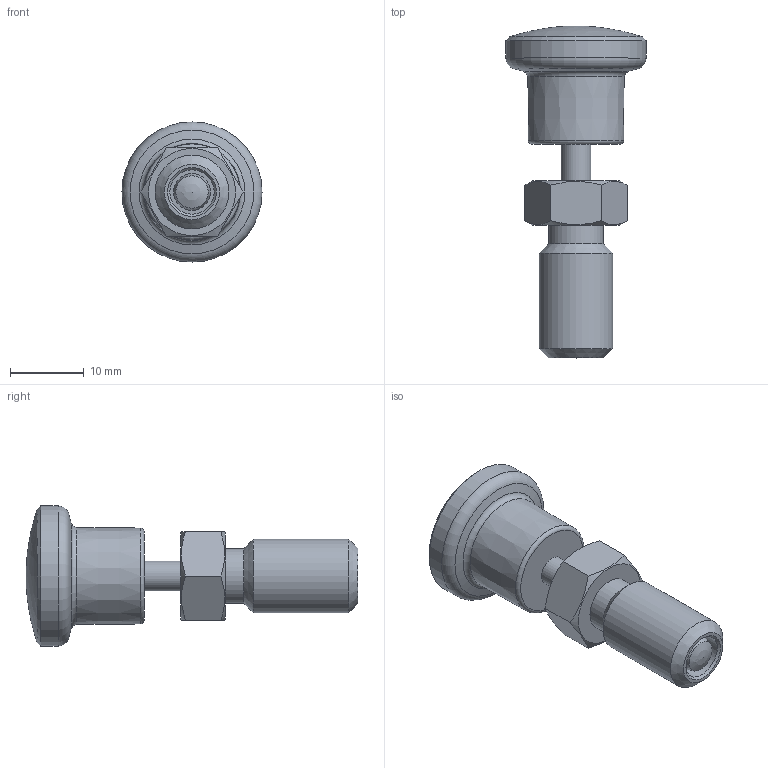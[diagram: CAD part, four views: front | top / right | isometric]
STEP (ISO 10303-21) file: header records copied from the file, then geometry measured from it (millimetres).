
FILE_DESCRIPTION( ( 'STEP AP203' ), '1' );
FILE_NAME( 'C:/Temp/Ganter_Step_05_03_2020/data/3_1/gn817/gn817_ni-rastbolzen_rot/Stainless steel-Indexing plunger GN 817-5-5-B-NI-RT (activated).stp', '2020-03-12T09:00:13', ( 'License CC BY-ND 4.0' ), ( 'CADENAS' ), ' ', 'PARTsolutions', ' ' );
FILE_SCHEMA( ( 'CONFIG_CONTROL_DESIGN' ) );
Length unit declared in the file: millimetre
Products named in the file (4): Stainless steel-Indexing plunger GN 817-5-5-B-NI-RT (activated); _Stainless steel-Indexing plunger GN 817-5-5-B-NI-RT (activated)-d; _Stainless steel-Indexing plunger GN 817-5-5-B-NI-RT-2; _Stainless Steel Indexing plunger GN 817-5-5-B-NI-RT-1
Assembly tree (3 placements, depth 2):
  Stainless steel-Indexing plunger GN 817-5-5-B-NI-RT (activated)
    _Stainless steel-Indexing plunger GN 817-5-5-B-NI-RT (activated)-d
    _Stainless steel-Indexing plunger GN 817-5-5-B-NI-RT-2
    _Stainless Steel Indexing plunger GN 817-5-5-B-NI-RT-1
Bounding box: 19 x 45 x 19 mm (x, y, z)
Volume: 4801.1 mm3; surface area: 3097.1 mm2
Topology: 2 solids, 2 shells, 38 faces, 78 edges, 48 vertices
Faces by surface type: plane 13, cone 10, cylinder 8, torus 5, bspline 1, sphere 1
Full cylindrical faces by diameter (mm): 4 x2, 5 x1, 6 x2, 7.4 x1, 10 x1, 19 x1
Entity records: 1082 total; most frequent: CARTESIAN_POINT 270, DIRECTION 148, ORIENTED_EDGE 96, AXIS2_PLACEMENT_3D 71, EDGE_LOOP 68, FACE_OUTER_BOUND 51, EDGE_CURVE 48, VERTEX_POINT 44
